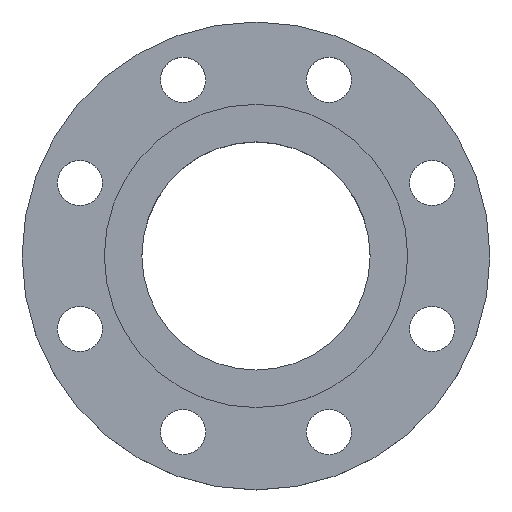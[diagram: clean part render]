
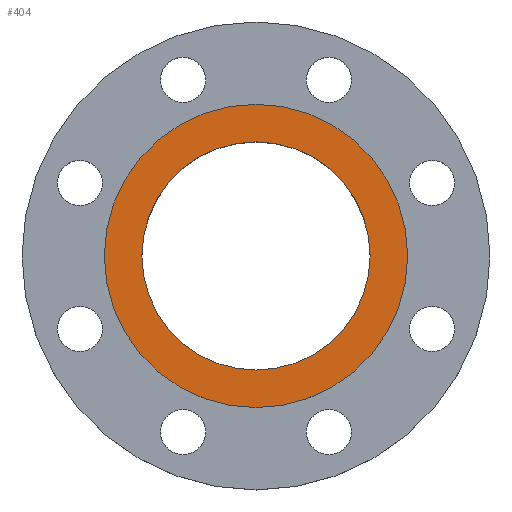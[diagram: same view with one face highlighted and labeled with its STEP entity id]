
A CAD part, top view. The second image highlights one B-rep face of the part: STEP entity #404.
In plain terms, the highlighted planar face has unit normal (0, 0, 1).
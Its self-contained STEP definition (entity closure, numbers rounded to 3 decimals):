
#33 = CARTESIAN_POINT ( 'NONE',  ( 0., 0., 0. ) ) ;
#65 = DIRECTION ( 'NONE',  ( 0., 0., 1. ) ) ;
#81 = DIRECTION ( 'NONE',  ( -1., 0., 0. ) ) ;
#82 = VERTEX_POINT ( 'NONE', #463 ) ;
#93 = DIRECTION ( 'NONE',  ( -1., 0., 0. ) ) ;
#140 = VERTEX_POINT ( 'NONE', #807 ) ;
#147 = FACE_OUTER_BOUND ( 'NONE', #1092, .T. ) ;
#170 = CARTESIAN_POINT ( 'NONE',  ( -65.85, 0., 0. ) ) ;
#179 = DIRECTION ( 'NONE',  ( 0., 0., -1. ) ) ;
#262 = CARTESIAN_POINT ( 'NONE',  ( 87.5, 0., 0. ) ) ;
#280 = CIRCLE ( 'NONE', #1061, 87.5 ) ;
#282 = AXIS2_PLACEMENT_3D ( 'NONE', #943, #179, #519 ) ;
#320 = VERTEX_POINT ( 'NONE', #170 ) ;
#346 = CIRCLE ( 'NONE', #961, 65.85 ) ;
#375 = DIRECTION ( 'NONE',  ( 0., 0., -1. ) ) ;
#404 = ADVANCED_FACE ( 'NONE', ( #910, #147 ), #491, .T. ) ;
#406 = DIRECTION ( 'NONE',  ( 1., 0., 0. ) ) ;
#435 = AXIS2_PLACEMENT_3D ( 'NONE', #825, #65, #406 ) ;
#463 = CARTESIAN_POINT ( 'NONE',  ( 65.85, 0., 0. ) ) ;
#487 = ORIENTED_EDGE ( 'NONE', *, *, #1104, .T. ) ;
#488 = EDGE_LOOP ( 'NONE', ( #590, #487 ) ) ;
#491 = PLANE ( 'NONE',  #435 ) ;
#504 = CARTESIAN_POINT ( 'NONE',  ( 0., 0., 0. ) ) ;
#517 = CARTESIAN_POINT ( 'NONE',  ( 0., 0., 0. ) ) ;
#519 = DIRECTION ( 'NONE',  ( -1., 0., 0. ) ) ;
#590 = ORIENTED_EDGE ( 'NONE', *, *, #1087, .T. ) ;
#650 = CIRCLE ( 'NONE', #787, 87.5 ) ;
#715 = DIRECTION ( 'NONE',  ( -1., 0., 0. ) ) ;
#767 = CIRCLE ( 'NONE', #282, 65.85 ) ;
#783 = EDGE_CURVE ( 'NONE', #140, #846, #650, .T. ) ;
#787 = AXIS2_PLACEMENT_3D ( 'NONE', #504, #840, #81 ) ;
#807 = CARTESIAN_POINT ( 'NONE',  ( -87.5, 0., 0. ) ) ;
#822 = ORIENTED_EDGE ( 'NONE', *, *, #783, .F. ) ;
#825 = CARTESIAN_POINT ( 'NONE',  ( 0., 0., 0. ) ) ;
#840 = DIRECTION ( 'NONE',  ( 0., 0., -1. ) ) ;
#846 = VERTEX_POINT ( 'NONE', #262 ) ;
#857 = DIRECTION ( 'NONE',  ( 0., 0., -1. ) ) ;
#910 = FACE_BOUND ( 'NONE', #488, .T. ) ;
#943 = CARTESIAN_POINT ( 'NONE',  ( 0., 0., 0. ) ) ;
#961 = AXIS2_PLACEMENT_3D ( 'NONE', #517, #857, #93 ) ;
#970 = ORIENTED_EDGE ( 'NONE', *, *, #1039, .F. ) ;
#1039 = EDGE_CURVE ( 'NONE', #846, #140, #280, .T. ) ;
#1061 = AXIS2_PLACEMENT_3D ( 'NONE', #33, #375, #715 ) ;
#1087 = EDGE_CURVE ( 'NONE', #320, #82, #346, .T. ) ;
#1092 = EDGE_LOOP ( 'NONE', ( #822, #970 ) ) ;
#1104 = EDGE_CURVE ( 'NONE', #82, #320, #767, .T. ) ;
